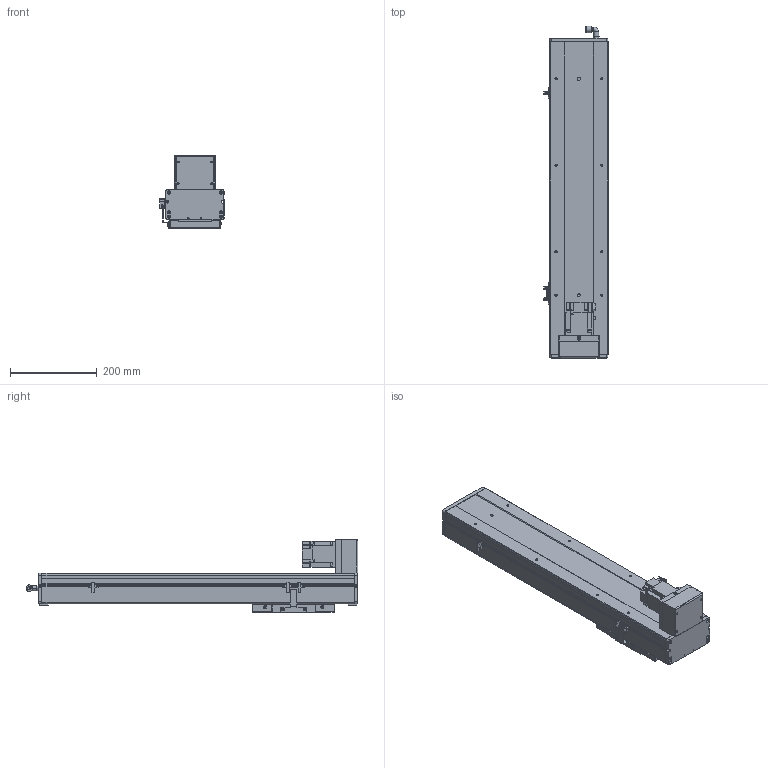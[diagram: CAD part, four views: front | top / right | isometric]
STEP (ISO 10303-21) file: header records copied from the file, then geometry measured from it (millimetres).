
FILE_DESCRIPTION (( 'STEP AP203' ), '1' );
FILE_NAME ('9.STEP', '2020-11-02T11:14:54', ( '' ), ( '' ), 'SwSTEP 2.0', 'SolidWorks 2016', '' );
FILE_SCHEMA (( 'CONFIG_CONTROL_DESIGN' ));
Length unit declared in the file: millimetre
Products named in the file (12): BCH14-BL-01; BCH14-BL-03; BCH14-BM-07; 9; BCH14-BM-M20; BCH14-BM-HZ; BCH14-BM-10; BCH14-BM-04; BCH14-BM-05; BCH14-BM-06; BCH14-BM-02; BCH14-BM-菁釱
Assembly tree (14 placements, depth 2):
  9
    BCH14-BM-菁釱
    BCH14-BL-01
    BCH14-BL-03  x2
    BCH14-BM-02
    BCH14-BM-04  x3
    BCH14-BM-05
    BCH14-BM-06
    BCH14-BM-07
    BCH14-BM-HZ
    BCH14-BM-M20
    BCH14-BM-10
Bounding box: 148.7 x 766.93 x 168.5 mm (x, y, z)
Volume: 3937110.8 mm3; surface area: 820050.3 mm2
Topology: 22 solids, 22 shells, 1403 faces, 3683 edges, 2341 vertices
Faces by surface type: plane 863, cylinder 404, cone 102, bspline 20, sphere 8, torus 6
Entity records: 37172 total; most frequent: CARTESIAN_POINT 7423, DIRECTION 5907, ORIENTED_EDGE 5850, EDGE_CURVE 2925, LINE 1979, VECTOR 1979, AXIS2_PLACEMENT_3D 1964, VERTEX_POINT 1889
